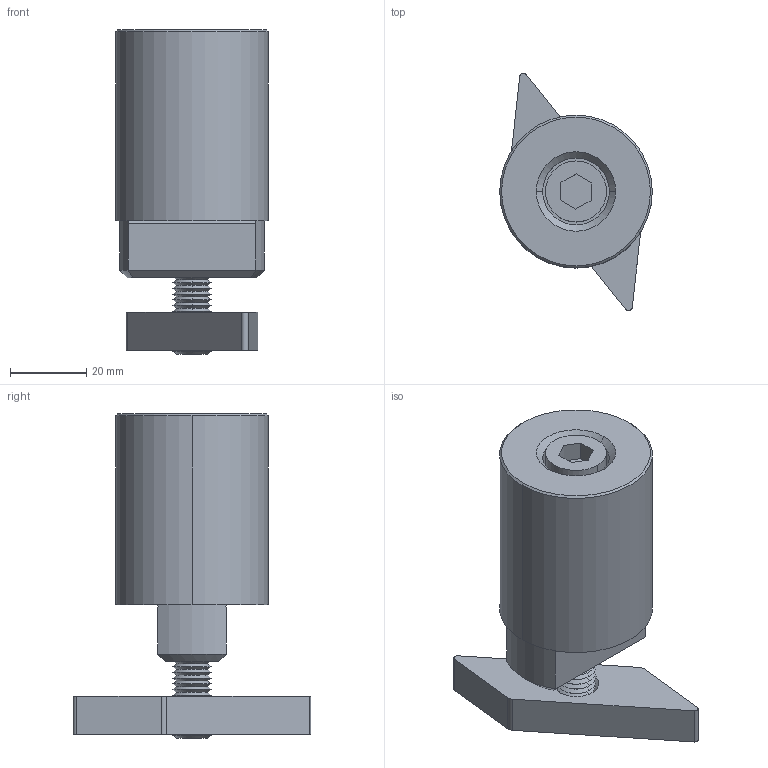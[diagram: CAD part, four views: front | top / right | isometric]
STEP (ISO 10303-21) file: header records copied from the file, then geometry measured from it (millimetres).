
FILE_DESCRIPTION (( 'STEP AP203' ), '1' );
FILE_NAME ('30200.W0218.step', '2017-06-30T11:04:28', ( 'User' ), ( '' ), 'SwSTEP 2.0', 'SolidWorks 2009', '' );
FILE_SCHEMA (( 'CONFIG_CONTROL_DESIGN' ));
Length unit declared in the file: millimetre
Products named in the file (4): screw_M10x75; Part1_30200.W0218; Wedge_30200.W0218; 30200.W0218
Assembly tree (3 placements, depth 2):
  30200.W0218
    Wedge_30200.W0218
    Part1_30200.W0218
    screw_M10x75
Bounding box: 40 x 62.2 x 85 mm (x, y, z)
Volume: 80435.2 mm3; surface area: 19769.6 mm2
Topology: 3 solids, 3 shells, 132 faces, 281 edges, 159 vertices
Faces by surface type: cone 79, plane 34, cylinder 19
Entity records: 3908 total; most frequent: DIRECTION 670, CARTESIAN_POINT 590, ORIENTED_EDGE 562, EDGE_CURVE 281, AXIS2_PLACEMENT_3D 255, LINE 160, VECTOR 160, VERTEX_POINT 159
